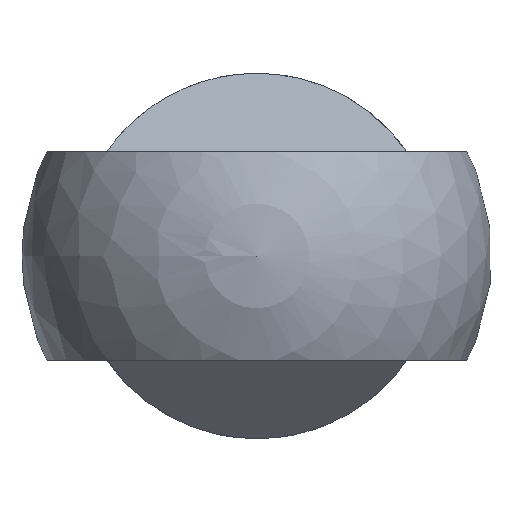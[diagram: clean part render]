
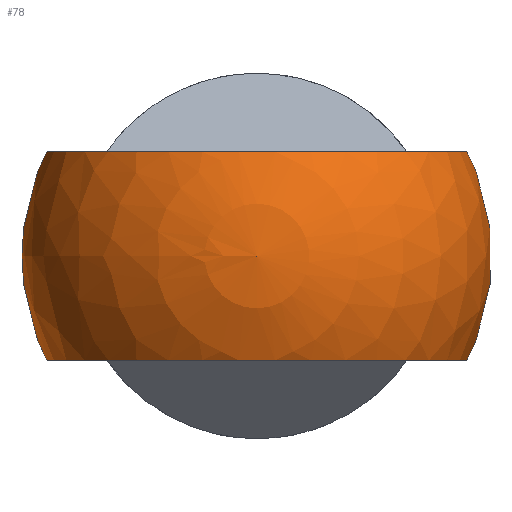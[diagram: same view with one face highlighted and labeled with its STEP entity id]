
A CAD part, left-side view. The second image highlights one B-rep face of the part: STEP entity #78.
In plain terms, the highlighted spherical face has radius 9 mm.
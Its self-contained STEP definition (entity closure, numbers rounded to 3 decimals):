
#78 = ADVANCED_FACE( '', ( #97, #98 ), #99, .T. );
#97 = FACE_BOUND( '', #131, .T. );
#98 = FACE_OUTER_BOUND( '', #132, .T. );
#99 = SPHERICAL_SURFACE( '', #133, 9. );
#131 = VERTEX_LOOP( '', #181 );
#132 = EDGE_LOOP( '', ( #182, #183, #184, #185 ) );
#133 = AXIS2_PLACEMENT_3D( '', #186, #187, #188 );
#181 = VERTEX_POINT( '', #245 );
#182 = ORIENTED_EDGE( '', *, *, #239, .F. );
#183 = ORIENTED_EDGE( '', *, *, #237, .T. );
#184 = ORIENTED_EDGE( '', *, *, #243, .F. );
#185 = ORIENTED_EDGE( '', *, *, #246, .T. );
#186 = CARTESIAN_POINT( '', ( 0., 0., 0. ) );
#187 = DIRECTION( '', ( 1., 0., 0. ) );
#188 = DIRECTION( '', ( 0., 1., 0. ) );
#237 = EDGE_CURVE( '', #257, #262, #264, .F. );
#239 = EDGE_CURVE( '', #257, #267, #268, .F. );
#243 = EDGE_CURVE( '', #273, #262, #275, .F. );
#245 = CARTESIAN_POINT( '', ( -9., 0., 0. ) );
#246 = EDGE_CURVE( '', #273, #267, #277, .F. );
#257 = VERTEX_POINT( '', #291 );
#262 = VERTEX_POINT( '', #298 );
#264 = CIRCLE( '', #301, 8.062 );
#267 = VERTEX_POINT( '', #304 );
#268 = CIRCLE( '', #305, 7. );
#273 = VERTEX_POINT( '', #311 );
#275 = CIRCLE( '', #314, 7. );
#277 = CIRCLE( '', #316, 8.062 );
#291 = CARTESIAN_POINT( '', ( 5.657, 5.745, -4. ) );
#298 = CARTESIAN_POINT( '', ( 5.657, -5.745, -4. ) );
#301 = AXIS2_PLACEMENT_3D( '', #336, #337, #338 );
#304 = CARTESIAN_POINT( '', ( 5.657, 5.745, 4. ) );
#305 = AXIS2_PLACEMENT_3D( '', #342, #343, #344 );
#311 = CARTESIAN_POINT( '', ( 5.657, -5.745, 4. ) );
#314 = AXIS2_PLACEMENT_3D( '', #350, #351, #352 );
#316 = AXIS2_PLACEMENT_3D( '', #356, #357, #358 );
#336 = CARTESIAN_POINT( '', ( 0., 0., -4. ) );
#337 = DIRECTION( '', ( 0., 0., -1. ) );
#338 = DIRECTION( '', ( -1., 0., 0. ) );
#342 = CARTESIAN_POINT( '', ( 5.657, 0., 0. ) );
#343 = DIRECTION( '', ( -1., 0., 0. ) );
#344 = DIRECTION( '', ( 0., -1., 0. ) );
#350 = CARTESIAN_POINT( '', ( 5.657, 0., 0. ) );
#351 = DIRECTION( '', ( -1., 0., 0. ) );
#352 = DIRECTION( '', ( 0., -1., 0. ) );
#356 = CARTESIAN_POINT( '', ( 0., 0., 4. ) );
#357 = DIRECTION( '', ( 0., 0., 1. ) );
#358 = DIRECTION( '', ( 1., 0., 0. ) );
